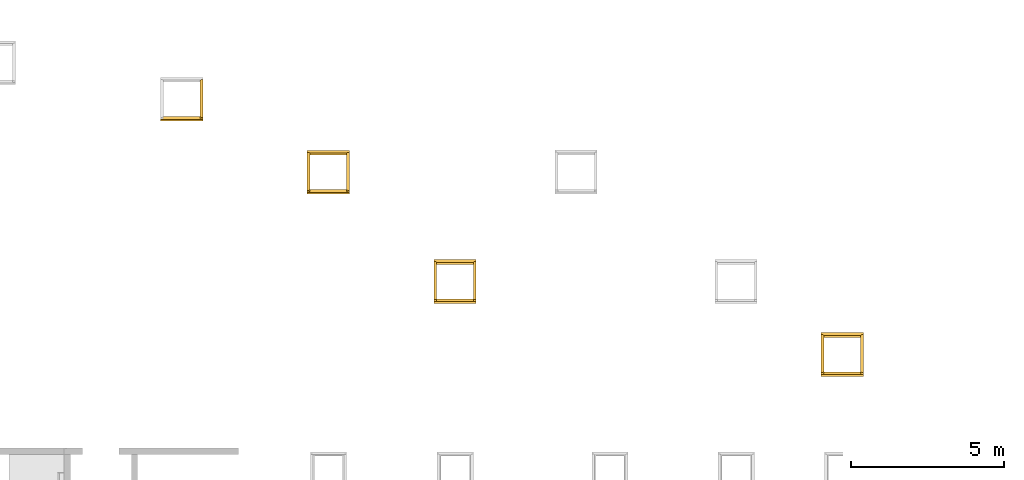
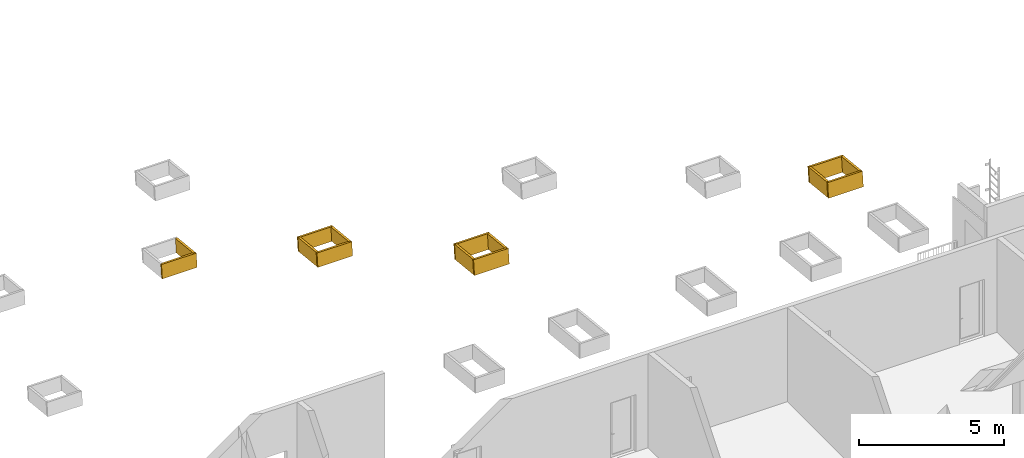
# One storey, part 17 of 23: 14 coverings.
"""IFC2X3 building model written with IfcOpenShell, lengths in millimetres."""

from ifc_helpers import new_model, entity, si_unit, converted_unit, derived_unit, money_unit, direction, frame, origin_with_axes, place, context, subcontext, project, spatial, faceted_brep, material, material_list, type_object, element, save


model = new_model("IFC2X3")

# Units and contexts
model_context = context("Model", 3, precision=0.01, world=origin_with_axes(), true_north=direction((0.0, 1.0)))
body_context = subcontext(model_context, "Body", "Model", "MODEL_VIEW")
ifc_project = project(units=[si_unit("LENGTHUNIT", "METRE", prefix="MILLI"), si_unit("AREAUNIT", "SQUARE_METRE"), si_unit("VOLUMEUNIT", "CUBIC_METRE"), converted_unit("PLANEANGLEUNIT", "DEGREE", entity("IfcPlaneAngleMeasure", 0.0174532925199), si_unit("PLANEANGLEUNIT", "RADIAN"), dimensions=[0, 0, 0, 0, 0, 0, 0]), si_unit("SOLIDANGLEUNIT", "STERADIAN"), money_unit("EUR"), converted_unit("TIMEUNIT", "Year", entity("IfcTimeMeasure", 31556926.0), si_unit("TIMEUNIT", "SECOND"), dimensions=[0, 0, 1, 0, 0, 0, 0]), si_unit("MASSUNIT", "GRAM", prefix="KILO"), si_unit("THERMODYNAMICTEMPERATUREUNIT", "DEGREE_CELSIUS"), si_unit("LUMINOUSINTENSITYUNIT", "LUMEN"), si_unit("ENERGYUNIT", "JOULE", prefix="MEGA"), derived_unit("THERMALCONDUCTANCEUNIT", [(si_unit("POWERUNIT", "WATT"), 1), (si_unit("LENGTHUNIT", "METRE"), -1), (si_unit("THERMODYNAMICTEMPERATUREUNIT", "KELVIN"), -1)]), derived_unit("SPECIFICHEATCAPACITYUNIT", [(si_unit("ENERGYUNIT", "JOULE"), 1), (si_unit("MASSUNIT", "GRAM", prefix="KILO"), -1), (si_unit("THERMODYNAMICTEMPERATUREUNIT", "KELVIN"), -1)]), derived_unit("MASSDENSITYUNIT", [(si_unit("MASSUNIT", "GRAM", prefix="KILO"), 1), (si_unit("VOLUMEUNIT", "CUBIC_METRE"), -1)])], contexts=[model_context])

# Site, building, storey
site_placement = place(None, origin_with_axes())
site = spatial("IfcSite", under=ifc_project, at=site_placement, Name="L.Koidula tn 11b", CompositionType="ELEMENT")
building_placement = place(site_placement, origin_with_axes())
building = spatial("IfcBuilding", under=site, at=building_placement, Name="Rakvere Riigigümnaasium", CompositionType="ELEMENT")
storey_placement = place(building_placement, frame((0.0, 0.0, 7440.0), z_axis=(0.0, 0.0, 1.0), x_axis=(1.0, 0.0, 0.0)))
storey = spatial("IfcBuildingStorey", under=building, at=storey_placement, Name="3.korrus +7,44", CompositionType="ELEMENT", Elevation=7440.0)

# Coverings
ifc_material_1 = material(Name="SKR-02_Kipsplaat")
ifc_material_2 = material(Name="mineraalvill+karkass")
ifc_material_list_1 = material_list([ifc_material_1, ifc_material_1, ifc_material_2])
covering_type = type_object("IfcCoveringType", Name="SA-2xkips 91", PredefinedType="NOTDEFINED")
covering_1_placement = place(storey_placement, frame((73068.2525338, 20943.9492485, 2488.77217885), z_axis=(0.0, 0.0, 1.0), x_axis=(-1.0, 0.0, 0.0)))
element("IfcCovering", 1, at=covering_1_placement, inside=storey, type_object=covering_type, material=ifc_material_list_1, Name="Ava-pinnakate", PredefinedType="NOTDEFINED", context=body_context, shape_type="Brep", body=[
    faceted_brep([(1212.48869428, -78.3591510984, 625.952868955), (-12.5112131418, -78.3591510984, 625.952868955), (-12.5019176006, -13.3997450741, 7.90540530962), (1212.49807813, -13.3997450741, 7.90540530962), (-12.5094342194, -65.9276274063, 627.259474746), (1212.49049011, -65.9276274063, 627.259474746), (-12.5001386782, -0.968221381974, 9.21201110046), (1212.49987395, -0.968221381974, 9.21201110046)], [[[0, 1, 2, 3]], [[4, 1, 0, 5]], [[1, 4, 6, 2]], [[7, 3, 2, 6]], [[5, 0, 3, 7]], [[4, 5, 7, 6]]]),
    faceted_brep([(1224.98689859, -90.7906747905, 624.646263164), (-25.0129921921, -90.7906747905, 624.646263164), (-25.0036966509, -25.8312687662, 6.59879951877), (1224.99628244, -25.8312687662, 6.59879951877), (-25.0112132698, -78.3591510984, 625.952868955), (1224.98869441, -78.3591510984, 625.952868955), (-25.0019177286, -13.3997450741, 7.90540530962), (1224.99807826, -13.3997450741, 7.90540530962)], [[[0, 1, 2, 3]], [[4, 1, 0, 5]], [[1, 4, 6, 2]], [[7, 3, 2, 6]], [[5, 0, 3, 7]], [[4, 5, 7, 6]]]),
    faceted_brep([(1290.97741734, -156.429119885, 617.747384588), (-91.022385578, -156.429119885, 617.747384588), (-91.01309455, -91.5012534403, 0.0), (1290.98679663, -91.5012534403, 0.0), (-91.0129928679, -90.7906747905, 624.646263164), (1290.98689928, -90.7906747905, 624.646263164), (-91.0036973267, -25.8312687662, 6.59879951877), (-91.0126814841, -88.6146523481, 0.0), (1290.98721362, -88.6146523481, 0.0), (1290.99628313, -25.8312687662, 6.59879951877)], [[[0, 1, 2, 3]], [[4, 1, 0, 5]], [[1, 4, 6, 7, 2]], [[2, 7, 8, 3]], [[5, 0, 3, 8, 9]], [[4, 5, 9, 6]], [[9, 8, 7, 6]]]),
])
covering_2_placement = place(storey_placement, frame((71868.0802601, 19751.4842149, 2623.35249478), z_axis=(0.0, 0.0, 1.0), x_axis=(1.0, 0.0, 0.0)))
element("IfcCovering", 2, at=covering_2_placement, inside=storey, type_object=covering_type, material=ifc_material_list_1, Name="Ava-pinnakate", PredefinedType="NOTDEFINED", context=body_context, shape_type="Brep", body=[
    faceted_brep([(-12.4906152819, 64.9663315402, 618.113320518), (1212.51093141, 64.9663315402, 618.113320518), (1212.50163586, 0.00692187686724, 0.0658572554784), (-12.4999991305, 0.00692187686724, 0.0658572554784), (1212.50915248, 52.5348042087, 619.419926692), (-12.4924111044, 52.5348042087, 619.419926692), (1212.49985694, -12.4246018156, 1.37246304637), (-12.5017949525, -12.4246018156, 1.37246304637)], [[[0, 1, 2, 3]], [[4, 1, 0, 5]], [[1, 4, 6, 2]], [[7, 3, 2, 6]], [[5, 0, 3, 7]], [[4, 5, 7, 6]]]),
    faceted_brep([(-24.9924112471, 52.5348042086, 619.419926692), (1225.00915263, 52.5348042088, 619.419926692), (1224.99985761, -12.4246018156, 1.37246304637), (-25.0017937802, -12.4246018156, 1.37246304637), (1225.00737371, 40.1032805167, 620.726532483), (-24.9942070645, 40.1032805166, 620.726532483), (1224.99807868, -24.8561255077, 2.67906883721), (-25.0035895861, -24.8561255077, 2.67906883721)], [[[0, 1, 2, 3]], [[4, 1, 0, 5]], [[1, 4, 6, 2]], [[7, 3, 2, 6]], [[5, 0, 3, 7]], [[4, 5, 7, 6]]]),
    faceted_brep([(-90.9942077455, 40.1032805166, 620.726532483), (1291.00737367, 40.1032805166, 620.726532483), (1290.99807813, -24.8561255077, 2.67906883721), (-91.0035915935, -24.8561255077, 2.67906883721), (1290.99798096, -25.535165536, 627.625411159), (-91.0036896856, -25.535165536, 627.625411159), (1290.98868542, -90.4945706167, 9.57794741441), (-91.0130735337, -90.4945706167, 9.57794741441)], [[[0, 1, 2, 3]], [[4, 1, 0, 5]], [[1, 4, 6, 2]], [[7, 3, 2, 6]], [[5, 0, 3, 7]], [[4, 5, 7, 6]]]),
])
covering_3_placement = place(storey_placement, frame((71868.2525201, 20943.9492485, 2412.6842163), z_axis=(0.0, 0.0, 1.0), x_axis=(-0.000144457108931, -0.999999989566, 0.0)))
element("IfcCovering", 3, at=covering_3_placement, inside=storey, type_object=covering_type, material=ifc_material_list_1, Name="Ava-pinnakate", PredefinedType="NOTDEFINED", context=body_context, shape_type="Brep", body=[
    faceted_brep([(-65.9258223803, -12.5, 703.347437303), (-65.9276280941, -6.12402573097e-07, 703.347437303), (-0.968221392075, -8.99547103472e-09, 85.2999736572), (-0.966415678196, -12.5, 85.2999736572), (1127.4987138, -7.61559704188e-08, 828.781599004), (1127.50051951, -12.5, 828.781599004), (1192.45812414, -1.17533716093e-06, 210.734135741), (1192.45992985, -12.4999999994, 210.734135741)], [[[0, 1, 2, 3]], [[4, 1, 0, 5]], [[1, 4, 6, 2]], [[7, 3, 2, 6]], [[5, 0, 3, 7]], [[4, 5, 7, 6]]]),
    faceted_brep([(-78.3555404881, -25.0000006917, 702.040831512), (-78.3573462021, -12.5, 702.040831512), (-13.3979395, -12.5, 83.9933678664), (-13.396133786, -25.0000006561, 83.9933678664), (1139.93204697, -12.5, 830.088205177), (1139.93385268, -25.0000000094, 830.088205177), (1204.89145367, -12.5, 212.040741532), (1204.89325939, -24.9999985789, 212.040741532)], [[[0, 1, 2, 3]], [[4, 1, 0, 5]], [[1, 4, 6, 2]], [[7, 3, 2, 6]], [[5, 0, 3, 7]], [[4, 5, 7, 6]]]),
    faceted_brep([(-90.7775301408, -91.0, 700.734225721), (-90.78706431, -25.0000006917, 700.734225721), (-25.8276576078, -25.000000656, 82.6867620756), (-25.8181234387, -91.0, 82.6867620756), (1152.36537651, -25.0000000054, 831.394810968), (1152.37491068, -91.0, 831.394810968), (1217.32478321, -24.9999985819, 213.347347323), (1217.33431738, -91.0, 213.347347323)], [[[0, 1, 2, 3]], [[4, 1, 0, 5]], [[1, 4, 6, 2]], [[7, 3, 2, 6]], [[5, 0, 3, 7]], [[4, 5, 7, 6]]]),
])
ifc_material_list_2 = material_list([ifc_material_2, ifc_material_1, ifc_material_1])
covering_4_placement = place(storey_placement, frame((73068.2525338, 20943.9492485, 2412.6842163), z_axis=(0.0, 0.0, 1.0), x_axis=(-0.000143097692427, -0.999999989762, 0.0)))
element("IfcCovering", 4, at=covering_4_placement, inside=storey, type_object=covering_type, material=ifc_material_list_2, Name="Ava-pinnakate", PredefinedType="NOTDEFINED", context=body_context, shape_type="Brep", body=[
    faceted_brep([(-90.7942531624, 25.0000000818, 700.734225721), (-90.8036976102, 91.0, 700.734225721), (-25.8442909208, 91.0, 82.6867620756), (-25.8348464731, 25.0000006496, 82.6867620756), (1152.34874296, 90.9999993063, 831.394810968), (1152.35818741, 25.0000000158, 831.394810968), (1217.30814965, 90.9999993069, 213.347347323), (1217.3175941, 25.0000005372, 213.347347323)], [[[0, 1, 2, 3]], [[4, 1, 0, 5]], [[1, 4, 6, 2]], [[7, 3, 2, 6]], [[5, 0, 3, 7]], [[4, 5, 7, 6]]]),
    faceted_brep([(-78.3609406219, 12.5, 702.040831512), (-78.362729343, 25.0000000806, 702.040831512), (-13.4033226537, 25.0000006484, 83.9933678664), (-13.4015339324, 12.5, 83.9933678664), (1139.92666359, 25.0000000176, 830.088205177), (1139.92845231, 12.5, 830.088205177), (1204.88607028, 25.0000005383, 212.040741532), (1204.887859, 12.5, 212.040741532)], [[[0, 1, 2, 3]], [[4, 1, 0, 5]], [[1, 4, 6, 2]], [[7, 3, 2, 6]], [[5, 0, 3, 7]], [[4, 5, 7, 6]]]),
    faceted_brep([(-65.9276280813, 0.0, 703.347437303), (-65.9293967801, 12.5, 703.347439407), (-0.968266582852, 12.5, 85.3001569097), (-0.96822139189, 0.0, 85.2999736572), (1127.49697124, 12.5, 828.78160388), (1127.49871358, 0.0, 828.781599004), (1192.45810418, 12.5, 210.73432167), (1192.4581239, 0.0, 210.734135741)], [[[0, 1, 2, 3]], [[4, 1, 0, 5]], [[1, 4, 6, 2]], [[7, 3, 2, 6]], [[5, 0, 3, 7]], [[4, 5, 7, 6]]]),
])
covering_5_placement = place(storey_placement, frame((60390.1932006, 23330.6681252, 2239.03667951), z_axis=(0.0, 0.0, 1.0), x_axis=(-1.0, 0.0, 0.0)))
element("IfcCovering", 5, at=covering_5_placement, inside=storey, type_object=covering_type, material=ifc_material_list_1, Name="Ava-pinnakate", PredefinedType="NOTDEFINED", context=body_context, shape_type="Brep", body=[
    faceted_brep([(-12.5001220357, -0.851919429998, 8.10547194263), (-12.5019009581, -13.2834431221, 6.79886615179), (-12.5111964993, -78.2428491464, 624.846329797), (-12.5094175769, -65.8113254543, 626.152935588), (1212.49809493, -13.2834431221, 6.79886615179), (1212.49989075, -0.851919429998, 8.10547194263), (1212.48871108, -78.2428491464, 624.846329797), (1212.49050691, -65.8113254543, 626.152935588)], [[[0, 1, 2, 3]], [[4, 1, 0, 5]], [[1, 4, 6, 2]], [[7, 3, 2, 6]], [[5, 0, 3, 7]], [[4, 5, 7, 6]]]),
    faceted_brep([(-25.001901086, -13.2834431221, 6.79886615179), (-25.0036800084, -25.7149668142, 5.49226036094), (-25.0129755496, -90.6743728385, 623.539724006), (-25.0111966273, -78.2428491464, 624.846329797), (1224.99629924, -25.7149668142, 5.49226036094), (1224.99809506, -13.2834431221, 6.79886615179), (1224.98691539, -90.6743728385, 623.539724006), (1224.98871121, -78.2428491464, 624.846329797)], [[[0, 1, 2, 3]], [[4, 1, 0, 5]], [[1, 4, 6, 2]], [[7, 3, 2, 6]], [[5, 0, 3, 7]], [[4, 5, 7, 6]]]),
    faceted_brep([(-91.0036806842, -25.7149668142, 5.49226036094), (-91.0111583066, -77.9703335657, 0.0), (-91.0130945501, -91.5012534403, 0.0), (-91.0223689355, -156.312817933, 616.640845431), (-91.0129762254, -90.6743728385, 623.539724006), (1290.98875127, -77.9703335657, 0.0), (1290.99629993, -25.7149668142, 5.49226036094), (1290.98679663, -91.5012534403, 0.0), (1290.97743414, -156.312817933, 616.640845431), (1290.98691608, -90.6743728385, 623.539724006)], [[[0, 1, 2, 3, 4]], [[5, 1, 0, 6]], [[1, 5, 7, 2]], [[7, 8, 3, 2]], [[9, 4, 3, 8]], [[6, 0, 4, 9]], [[5, 6, 9, 8, 7]]]),
])
covering_6_placement = place(storey_placement, frame((59190.0209269, 22138.2030917, 2373.61699544), z_axis=(0.0, 0.0, 1.0), x_axis=(1.0, 0.0, 0.0)))
element("IfcCovering", 6, at=covering_6_placement, inside=storey, type_object=covering_type, material=ifc_material_list_1, Name="Ava-pinnakate", PredefinedType="NOTDEFINED", context=body_context, shape_type="Brep", body=[
    faceted_brep([(1212.4998403, -12.5409037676, 0.265923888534), (1212.50020235, -10.010806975, 0.0), (1212.50163487, 0.0, 0.0), (1212.51091476, 64.8500295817, 617.006781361), (1212.50913584, 52.4185022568, 618.313387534), (-12.5014462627, -10.010806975, 0.0), (-12.5018117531, -12.5409037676, 0.265923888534), (-12.5000001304, 0.0, 0.0), (-12.4906320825, 64.8500295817, 617.006781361), (-12.4924279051, 52.4185022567, 618.313387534)], [[[0, 1, 2, 3, 4]], [[5, 1, 0, 6]], [[1, 5, 7, 2]], [[7, 8, 3, 2]], [[9, 4, 3, 8]], [[6, 0, 4, 9]], [[5, 6, 9, 8, 7]]]),
    faceted_brep([(1224.99806204, -24.9724274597, 1.57252967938), (1224.99984097, -12.5409037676, 0.265923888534), (1225.00913599, 52.4185022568, 618.313387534), (1225.00735706, 39.9869785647, 619.619993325), (-25.0018105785, -12.5409037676, 0.265923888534), (-25.0036063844, -24.9724274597, 1.57252967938), (-24.9924280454, 52.4185022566, 618.313387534), (-24.9942238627, 39.9869785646, 619.619993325)], [[[0, 1, 2, 3]], [[4, 1, 0, 5]], [[1, 4, 6, 2]], [[7, 3, 2, 6]], [[5, 0, 3, 7]], [[4, 5, 7, 6]]]),
    faceted_brep([(1290.98866878, -90.6108725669, 8.4714082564), (1290.99806149, -24.9724274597, 1.57252967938), (1291.00735703, 39.9869785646, 619.619993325), (1290.99796432, -25.6514674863, 626.518872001), (-91.0036083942, -24.9724274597, 1.57252967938), (-91.0130903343, -90.6108725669, 8.4714082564), (-90.9942245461, 39.9869785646, 619.619993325), (-91.0037064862, -25.6514674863, 626.518872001)], [[[0, 1, 2, 3]], [[4, 1, 0, 5]], [[1, 4, 6, 2]], [[7, 3, 2, 6]], [[5, 0, 3, 7]], [[4, 5, 7, 6]]]),
])
covering_7_placement = place(storey_placement, frame((59190.1931869, 23330.6681252, 2162.94871695), z_axis=(0.0, 0.0, 1.0), x_axis=(-0.000144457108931, -0.999999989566, 0.0)))
element("IfcCovering", 7, at=covering_7_placement, inside=storey, type_object=covering_type, material=ifc_material_list_1, Name="Ava-pinnakate", PredefinedType="NOTDEFINED", context=body_context, shape_type="Brep", body=[
    faceted_brep([(1192.46504601, -1.1754579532e-06, 209.616100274), (-0.851919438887, -7.90834064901e-09, 84.1934344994), (-65.8113261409, -6.11315442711e-07, 702.240898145), (1127.61501576, -7.81312792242e-08, 827.675059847), (1192.46504601, -1.1754579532e-06, 210.668278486), (-0.850113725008, -12.5, 84.1934344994), (1192.46684271, -12.4999999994, 209.616099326), (-65.8095204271, -12.5, 702.240898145), (1127.61682147, -12.5, 827.675059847), (1192.46685173, -12.4999999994, 210.668278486)], [[[0, 1, 2, 3, 4]], [[5, 1, 0, 6]], [[1, 5, 7, 2]], [[8, 3, 2, 7]], [[4, 3, 8, 9]], [[6, 0, 4, 9]], [[5, 6, 9, 8, 7]]]),
    faceted_brep([(1192.46504601, -12.5, 209.615910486), (-13.2816375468, -12.5, 82.8868287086), (-78.2410442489, -12.5, 700.934292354), (1140.04834892, -12.5, 828.98166602), (1205.00775563, -12.5, 210.934202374), (1202.47765881, -12.5, 210.668278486), (1192.46504601, -12.5, 210.668278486), (-13.2798318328, -25.000000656, 82.8868287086), (1192.46504601, -24.9999985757, 209.615720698), (-78.239238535, -25.0000006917, 700.934292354), (1140.05015464, -25.0000000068, 828.98166602), (1205.00956134, -24.9999985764, 210.934202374), (1202.47946452, -24.9999985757, 210.668278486), (1192.46504601, -24.9999985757, 210.668278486)], [[[0, 1, 2, 3, 4, 5, 6]], [[7, 1, 0, 8]], [[1, 7, 9, 2]], [[10, 3, 2, 9]], [[11, 4, 3, 10]], [[12, 5, 4, 11]], [[5, 12, 13, 6]], [[8, 0, 6, 13]], [[7, 8, 13, 12, 11, 10, 9]]]),
    faceted_brep([(1192.46504601, -24.9999985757, 209.615720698), (-25.7113556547, -25.000000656, 81.5802229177), (-90.6707623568, -25.0000006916, 699.627686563), (1152.48167846, -25.0000000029, 830.28827181), (1217.44108516, -24.9999985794, 212.240808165), (1202.47946452, -24.9999985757, 210.668278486), (1192.46504601, -24.9999985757, 210.668278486), (-25.7018214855, -91.0, 81.5802229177), (1192.46504601, -91.0, 209.614718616), (-90.6612281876, -91.0, 699.627686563), (1152.49121263, -91.0, 830.28827181), (1217.45061933, -91.0, 212.240808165), (1202.48899869, -91.0, 210.668278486), (1192.46504601, -91.0, 210.668278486)], [[[0, 1, 2, 3, 4, 5, 6]], [[7, 1, 0, 8]], [[1, 7, 9, 2]], [[10, 3, 2, 9]], [[11, 4, 3, 10]], [[12, 5, 4, 11]], [[5, 12, 13, 6]], [[8, 0, 6, 13]], [[7, 8, 13, 12, 11, 10, 9]]]),
])
covering_8_placement = place(storey_placement, frame((60390.1932006, 23330.6681252, 2162.94871695), z_axis=(0.0, 0.0, 1.0), x_axis=(-0.000143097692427, -0.999999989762, 0.0)))
element("IfcCovering", 8, at=covering_8_placement, inside=storey, type_object=covering_type, material=ifc_material_list_2, Name="Ava-pinnakate", PredefinedType="NOTDEFINED", context=body_context, shape_type="Brep", body=[
    faceted_brep([(1192.46504578, 90.9999988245, 209.61746893), (-25.7279889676, 91.0, 81.5802229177), (-90.687395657, 91.0, 699.627686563), (1152.46504492, 90.9999993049, 830.28827181), (1217.42445161, 90.9999993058, 212.240808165), (1202.46283097, 90.999999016, 210.668278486), (1192.46504578, 90.9999988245, 210.668278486), (-25.7185445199, 25.0000006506, 81.5802229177), (1192.46504578, 25.0000005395, 209.616476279), (-90.6779512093, 25.0000000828, 699.627686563), (1152.47448936, 25.0000000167, 830.28827181), (1217.43389605, 25.0000005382, 212.240808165), (1202.47227542, 25.0000005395, 210.668278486), (1192.46504578, 25.0000005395, 210.668278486)], [[[0, 1, 2, 3, 4, 5, 6]], [[7, 1, 0, 8]], [[1, 7, 9, 2]], [[10, 3, 2, 9]], [[11, 4, 3, 10]], [[12, 5, 4, 11]], [[5, 12, 13, 6]], [[8, 0, 6, 13]], [[7, 8, 13, 12, 11, 10, 9]]]),
    faceted_brep([(1192.46504578, 25.0000005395, 209.616476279), (-13.2870207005, 25.0000006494, 82.8868287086), (-78.2464273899, 25.0000000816, 700.934292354), (1140.04296554, 25.0000000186, 828.98166602), (1205.00237223, 25.0000005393, 210.934202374), (1202.47227542, 25.0000005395, 210.668278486), (1192.46504578, 25.0000005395, 210.668278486), (-13.2852319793, 12.5, 82.8868287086), (1192.46504578, 12.5, 209.616288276), (-78.2446386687, 12.5, 700.934292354), (1140.04475427, 12.5, 828.98166602), (1205.00416096, 12.5, 210.934202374), (1202.47406414, 12.5, 210.668278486), (1192.46504578, 12.5, 210.668278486)], [[[0, 1, 2, 3, 4, 5, 6]], [[7, 1, 0, 8]], [[1, 7, 9, 2]], [[10, 3, 2, 9]], [[11, 4, 3, 10]], [[12, 5, 4, 11]], [[5, 12, 13, 6]], [[8, 0, 6, 13]], [[7, 8, 13, 12, 11, 10, 9]]]),
    faceted_brep([(1192.46504578, 12.5, 209.616288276), (-0.851961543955, 12.5, 84.1936180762), (-65.8130917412, 12.5, 702.240900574), (1127.61327629, 12.5, 827.675065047), (1192.46504578, 12.5, 210.668278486), (-0.85191943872, 0.0, 84.1934344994), (1192.46504578, 0.0, 209.616100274), (-65.8113261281, 0.0, 702.240898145), (1127.61501553, 0.0, 827.675059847), (1192.46504578, 0.0, 210.668278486)], [[[0, 1, 2, 3, 4]], [[5, 1, 0, 6]], [[1, 5, 7, 2]], [[8, 3, 2, 7]], [[4, 3, 8, 9]], [[6, 0, 4, 9]], [[5, 6, 9, 8, 7]]]),
])
covering_9_placement = place(storey_placement, frame((56240.0159734, 26913.2461742, 1861.69155271), z_axis=(0.0, 0.0, 1.0), x_axis=(-1.0, 0.0, 0.0)))
element("IfcCovering", 9, at=covering_9_placement, inside=storey, type_object=covering_type, material=ifc_material_list_1, Name="Ava-pinnakate", PredefinedType="NOTDEFINED", context=body_context, shape_type="Brep", body=[
    faceted_brep([(1212.48952628, -72.5996761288, 571.155125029), (-12.5103889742, -72.5996761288, 571.155125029), (-12.5019128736, -13.366711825, 7.59111493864), (1212.4980829, -13.366711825, 7.59111493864), (-12.5086100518, -60.1681524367, 572.46173082), (1212.4913221, -60.1681524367, 572.46173082), (-12.5001339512, -0.935188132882, 8.89772072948), (1212.49987873, -0.935188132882, 8.89772072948)], [[[0, 1, 2, 3]], [[4, 1, 0, 5]], [[1, 4, 6, 2]], [[7, 3, 2, 6]], [[5, 0, 3, 7]], [[4, 5, 7, 6]]]),
    faceted_brep([(1224.98773059, -85.0311998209, 569.848519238), (-25.0121680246, -85.0311998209, 569.848519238), (-25.003691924, -25.7982355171, 6.28450914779), (1224.99628721, -25.7982355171, 6.28450914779), (-25.0103891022, -72.5996761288, 571.155125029), (1224.98952641, -72.5996761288, 571.155125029), (-25.0019130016, -13.366711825, 7.59111493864), (1224.99808303, -13.366711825, 7.59111493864)], [[[0, 1, 2, 3]], [[4, 1, 0, 5]], [[1, 4, 6, 2]], [[7, 3, 2, 6]], [[5, 0, 3, 7]], [[4, 5, 7, 6]]]),
    faceted_brep([(1290.97824934, -150.669644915, 562.949640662), (-91.0215614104, -150.669644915, 562.949640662), (-91.0130945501, -91.5012534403, 0.0), (1290.98679663, -91.5012534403, 0.0), (-91.0121687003, -85.0311998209, 569.848519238), (1290.98773128, -85.0311998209, 569.848519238), (-91.0036925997, -25.7982355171, 6.28450914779), (-91.0122488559, -85.5913459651, 0.0), (1290.98765036, -85.5913459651, 0.0), (1290.9962879, -25.7982355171, 6.28450914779)], [[[0, 1, 2, 3]], [[4, 1, 0, 5]], [[1, 4, 6, 7, 2]], [[2, 7, 8, 3]], [[5, 0, 3, 8, 9]], [[4, 5, 9, 6]], [[9, 8, 7, 6]]]),
])
covering_10_placement = place(storey_placement, frame((55039.8436996, 25720.7811406, 1996.27186864), z_axis=(0.0, 0.0, 1.0), x_axis=(1.0, 0.0, 0.0)))
element("IfcCovering", 10, at=covering_10_placement, inside=storey, type_object=covering_type, material=ifc_material_list_1, Name="Ava-pinnakate", PredefinedType="NOTDEFINED", context=body_context, shape_type="Brep", body=[
    faceted_brep([(-12.4914472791, 59.2068562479, 563.315576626), (1212.51010724, 59.2068562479, 563.315576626), (1212.50163487, 0.0, 0.0), (-12.5000001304, 0.0, 0.0), (1212.50832832, 46.7753292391, 564.622182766), (-12.4932431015, 46.7753292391, 564.622182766), (1212.49985222, -12.4576350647, 1.05817267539), (1212.5012929, -2.38979457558, 0.0), (-12.5003453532, -2.38979457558, 0.0), (-12.5017997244, -12.4576350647, 1.05817267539)], [[[0, 1, 2, 3]], [[4, 1, 0, 5]], [[1, 4, 6, 7, 2]], [[2, 7, 8, 3]], [[5, 0, 3, 8, 9]], [[4, 5, 9, 6]], [[9, 8, 7, 6]]]),
    faceted_brep([(-24.9932431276, 46.775329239, 564.622182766), (1225.00832851, 46.7753292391, 564.622182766), (1224.99985288, -12.4576350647, 1.05817267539), (-25.0017985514, -12.4576350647, 1.05817267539), (1225.00654958, 34.343805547, 565.928788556), (-24.995038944, 34.343805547, 565.928788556), (1224.99807396, -24.8891587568, 2.36477846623), (-25.0035943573, -24.8891587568, 2.36477846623)], [[[0, 1, 2, 3]], [[4, 1, 0, 5]], [[1, 4, 6, 2]], [[7, 3, 2, 6]], [[5, 0, 3, 7]], [[4, 5, 7, 6]]]),
    faceted_brep([(-90.9950397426, 34.343805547, 565.928788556), (1291.00654951, 34.343805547, 565.928788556), (1290.99807341, -24.8891587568, 2.36477846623), (-91.0035963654, -24.8891587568, 2.36477846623), (1290.9971568, -31.294640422, 572.827667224), (-91.0045216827, -31.294640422, 572.827667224), (1290.9886807, -90.5276038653, 9.26365704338), (-91.0130783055, -90.5276038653, 9.26365704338)], [[[0, 1, 2, 3]], [[4, 1, 0, 5]], [[1, 4, 6, 2]], [[7, 3, 2, 6]], [[5, 0, 3, 7]], [[4, 5, 7, 6]]]),
])
covering_11_placement = place(storey_placement, frame((55040.0159597, 26913.2461742, 1785.60359016), z_axis=(0.0, 0.0, 1.0), x_axis=(-0.000144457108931, -0.999999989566, 0.0)))
element("IfcCovering", 11, at=covering_11_placement, inside=storey, type_object=covering_type, material=ifc_material_list_1, Name="Ava-pinnakate", PredefinedType="NOTDEFINED", context=body_context, shape_type="Brep", body=[
    faceted_brep([(-60.1663473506, -12.5, 648.549693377), (-60.1681530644, -5.58905810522e-07, 648.549693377), (-0.935188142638, -8.68993765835e-09, 84.9856832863), (-0.933382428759, -12.5, 84.9856832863), (1133.25818915, -1.7362822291e-07, 773.983855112), (1133.25999486, -12.4999999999, 773.983855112), (1192.46504601, -1.1754579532e-06, 210.668278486), (1192.46504601, -1.1754579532e-06, 210.417100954), (1192.46684957, -12.4999999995, 210.417100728), (1192.46685173, -12.4999999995, 210.668278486)], [[[0, 1, 2, 3]], [[4, 1, 0, 5]], [[1, 4, 6, 7, 2]], [[8, 3, 2, 7]], [[5, 0, 3, 8, 9]], [[4, 5, 9, 6]], [[9, 8, 7, 6]]]),
    faceted_brep([(-72.5960654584, -25.0000006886, 647.243087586), (-72.5978711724, -12.5, 647.243087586), (-13.3649062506, -12.5, 83.6790774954), (-13.3631005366, -25.0000006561, 83.6790774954), (1145.691522, -12.5, 775.290461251), (1145.69332771, -24.9999998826, 775.290461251), (1204.92448692, -12.5, 211.726451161), (1194.85664633, -12.5, 210.668278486), (1192.46504601, -12.5, 210.668278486), (1192.46504601, -12.5, 210.416911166), (1192.46504601, -24.9999985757, 210.416721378), (1192.46504601, -24.9999985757, 210.668278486), (1194.85845204, -24.9999985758, 210.668278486), (1204.92629264, -24.9999985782, 211.726451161)], [[[0, 1, 2, 3]], [[4, 1, 0, 5]], [[1, 4, 6, 7, 8, 9, 2]], [[10, 3, 2, 9]], [[5, 0, 3, 10, 11, 12, 13]], [[4, 5, 13, 6]], [[13, 12, 7, 6]], [[8, 7, 12, 11]], [[11, 10, 9, 8]]]),
    faceted_brep([(-85.018055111, -91.0, 645.936481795), (-85.0275892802, -25.0000006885, 645.936481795), (-25.7946243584, -25.000000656, 82.3724717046), (-25.7850901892, -91.0, 82.3724717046), (1158.12485154, -24.9999998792, 776.597067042), (1158.13438571, -91.0, 776.597067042), (1217.35781646, -24.9999985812, 213.033056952), (1194.85845204, -24.9999985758, 210.668278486), (1192.46504601, -24.9999985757, 210.668278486), (1192.46504601, -24.9999985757, 210.416721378), (1192.46504601, -91.0, 210.415719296), (1192.46504601, -91.0, 210.668278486), (1194.86798621, -91.0, 210.668278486), (1217.36735063, -91.0, 213.033056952)], [[[0, 1, 2, 3]], [[4, 1, 0, 5]], [[1, 4, 6, 7, 8, 9, 2]], [[10, 3, 2, 9]], [[5, 0, 3, 10, 11, 12, 13]], [[4, 5, 13, 6]], [[13, 12, 7, 6]], [[8, 7, 12, 11]], [[11, 10, 9, 8]]]),
])
covering_12_placement = place(storey_placement, frame((56240.0159734, 26913.2461742, 1785.60359016), z_axis=(0.0, 0.0, 1.0), x_axis=(-0.000143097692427, -0.999999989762, 0.0)))
element("IfcCovering", 12, at=covering_12_placement, inside=storey, type_object=covering_type, material=ifc_material_list_2, Name="Ava-pinnakate", PredefinedType="NOTDEFINED", context=body_context, shape_type="Brep", body=[
    faceted_brep([(-85.0347781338, 25.0000001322, 645.936481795), (-85.0442225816, 91.0, 645.936481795), (-25.8112576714, 91.0, 82.3724717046), (-25.8018132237, 25.0000006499, 82.3724717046), (1158.10821799, 90.9999993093, 776.597067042), (1158.11766244, 25.000000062, 776.597067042), (1217.3411829, 90.9999993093, 213.033056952), (1194.84181849, 90.9999988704, 210.668278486), (1192.46504578, 90.9999988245, 210.668278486), (1192.46504578, 90.9999988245, 210.41846961), (1192.46504578, 25.0000005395, 210.417476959), (1192.46504578, 25.0000005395, 210.668278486), (1194.85126294, 25.0000005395, 210.668278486), (1217.35062735, 25.0000005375, 213.033056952)], [[[0, 1, 2, 3]], [[4, 1, 0, 5]], [[1, 4, 6, 7, 8, 9, 2]], [[10, 3, 2, 9]], [[5, 0, 3, 10, 11, 12, 13]], [[4, 5, 13, 6]], [[13, 12, 7, 6]], [[8, 7, 12, 11]], [[11, 10, 9, 8]]]),
    faceted_brep([(-72.6014655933, 12.5, 647.243087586), (-72.6032543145, 25.000000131, 647.243087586), (-13.3702894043, 25.0000006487, 83.6790774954), (-13.368500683, 12.5, 83.6790774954), (1145.68613862, 25.0000000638, 775.290461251), (1145.68792734, 12.5, 775.290461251), (1204.91910353, 25.0000005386, 211.726451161), (1194.85126294, 25.0000005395, 210.668278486), (1192.46504578, 25.0000005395, 210.668278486), (1192.46504578, 25.0000005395, 210.417476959), (1192.46504578, 12.5, 210.417288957), (1192.46504578, 12.5, 210.668278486), (1194.85305166, 12.5, 210.668278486), (1204.92089225, 12.5, 211.726451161)], [[[0, 1, 2, 3]], [[4, 1, 0, 5]], [[1, 4, 6, 7, 8, 9, 2]], [[10, 3, 2, 9]], [[5, 0, 3, 10, 11, 12, 13]], [[4, 5, 13, 6]], [[13, 12, 7, 6]], [[8, 7, 12, 11]], [[11, 10, 9, 8]]]),
    faceted_brep([(-60.1681530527, 0.0, 648.549693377), (-60.1697689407, 12.5, 648.549711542), (-0.935232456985, 12.5, 84.9858666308), (-0.935188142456, 0.0, 84.9856832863), (1133.25659933, 12.5, 773.98387604), (1133.25818893, 0.0, 773.983855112), (1192.46504578, 12.5, 210.668278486), (1192.46504578, 12.5, 210.417288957), (1192.46504578, 0.0, 210.417100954), (1192.46504578, 0.0, 210.668278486)], [[[0, 1, 2, 3]], [[4, 1, 0, 5]], [[1, 4, 6, 7, 2]], [[8, 3, 2, 7]], [[5, 0, 3, 8, 9]], [[4, 5, 9, 6]], [[9, 8, 7, 6]]]),
])
covering_13_placement = place(storey_placement, frame((50244.6130617, 28106.3575355, 1733.59835329), z_axis=(0.0, 0.0, 1.0), x_axis=(1.0, 0.0, 0.0)))
element("IfcCovering", 13, at=covering_13_placement, inside=storey, type_object=covering_type, material=ifc_material_list_1, Name="Ava-pinnakate", PredefinedType="NOTDEFINED", context=body_context, shape_type="Brep", body=[
    faceted_brep([(-12.4912679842, 60.448019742, 575.124457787), (1212.51028485, 60.448019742, 575.124457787), (1212.50180875, 1.21505211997, 11.5604480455), (-12.4998246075, 1.21505211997, 11.5604480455), (1212.50850592, 48.0164926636, 576.431063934), (-12.4930638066, 48.0164926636, 576.431063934), (1212.50002982, -11.2164716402, 12.8670538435), (-12.5016204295, -11.2164716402, 12.8670538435)], [[[0, 1, 2, 3]], [[4, 1, 0, 5]], [[1, 4, 6, 2]], [[7, 3, 2, 6]], [[5, 0, 3, 7]], [[4, 5, 7, 6]]]),
    faceted_brep([(-24.9930638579, 48.0164926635, 576.431063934), (1225.00850611, 48.0164926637, 576.431063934), (1225.00003048, -11.2164716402, 12.8670538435), (-25.0016192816, -11.2164716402, 12.8670538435), (1225.00672718, 35.5849689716, 577.737669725), (-24.9948596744, 35.5849689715, 577.737669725), (1224.99825156, -23.6479953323, 14.1736596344), (-25.0034150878, -23.6479953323, 14.1736596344)], [[[0, 1, 2, 3]], [[4, 1, 0, 5]], [[1, 4, 6, 2]], [[7, 3, 2, 6]], [[5, 0, 3, 7]], [[4, 5, 7, 6]]]),
    faceted_brep([(-90.9948604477, 35.5849689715, 577.737669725), (1291.00672711, 35.5849689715, 577.737669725), (1290.99825101, -23.6479953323, 14.1736596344), (-91.0034170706, -23.6479953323, 14.1736596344), (1290.9973344, -30.0534770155, 584.636548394), (-91.0043423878, -30.0534770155, 584.636548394), (1290.9888583, -89.2864404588, 21.0725382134), (-91.0128990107, -89.2864404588, 21.0725382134)], [[[0, 1, 2, 3]], [[4, 1, 0, 5]], [[1, 4, 6, 2]], [[7, 3, 2, 6]], [[5, 0, 3, 7]], [[4, 5, 7, 6]]]),
])
covering_14_placement = place(storey_placement, frame((51444.7853354, 29298.8225691, 1522.9300748), z_axis=(0.0, 0.0, 1.0), x_axis=(-0.000143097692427, -0.999999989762, 0.0)))
element("IfcCovering", 14, at=covering_14_placement, inside=storey, type_object=covering_type, material=ifc_material_list_2, Name="Ava-pinnakate", PredefinedType="NOTDEFINED", context=body_context, shape_type="Brep", body=[
    faceted_brep([(-86.2759415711, 25.0000001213, 657.745362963), (-86.2853860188, 91.0, 657.745362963), (-27.0524211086, 91.0, 94.1813528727), (-27.0429766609, 25.000000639, 94.1813528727), (1156.86705455, 90.9999993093, 788.40594821), (1156.876499, 25.0000000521, 788.40594821), (1216.10001946, 90.9999993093, 224.84193812), (1216.10946391, 25.0000005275, 224.84193812)], [[[0, 1, 2, 3]], [[4, 1, 0, 5]], [[1, 4, 6, 2]], [[7, 3, 2, 6]], [[5, 0, 3, 7]], [[4, 5, 7, 6]]]),
    faceted_brep([(-73.8426290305, 12.5, 659.051968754), (-73.8444177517, 25.0000001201, 659.051968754), (-14.6114528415, 25.0000006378, 95.4879586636), (-14.6096641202, 12.5, 95.4879586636), (1144.44497518, 25.0000000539, 787.099342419), (1144.4467639, 12.5, 787.099342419), (1203.67794009, 25.0000005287, 223.535332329), (1203.67972881, 12.5, 223.535332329)], [[[0, 1, 2, 3]], [[4, 1, 0, 5]], [[1, 4, 6, 2]], [[7, 3, 2, 6]], [[5, 0, 3, 7]], [[4, 5, 7, 6]]]),
    faceted_brep([(-61.4093164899, 0.0, 660.358574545), (-61.4109653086, 12.5, 660.358589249), (-2.17642882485, 12.5, 96.7947443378), (-2.17635157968, 0.0, 96.7945644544), (1132.01540291, 12.5, 785.792753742), (1132.01702542, 0.0, 785.792736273), (1191.24994188, 12.5, 222.228909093), (1191.24999365, 0.0, 222.228726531)], [[[0, 1, 2, 3]], [[4, 1, 0, 5]], [[1, 4, 6, 2]], [[7, 3, 2, 6]], [[5, 0, 3, 7]], [[4, 5, 7, 6]]]),
])

save(model, "model.ifc")
